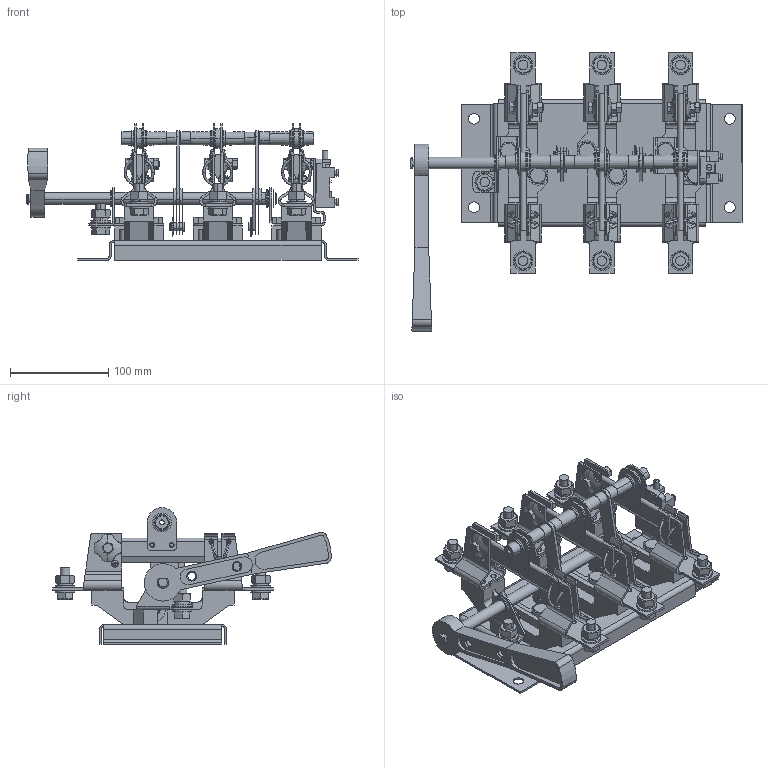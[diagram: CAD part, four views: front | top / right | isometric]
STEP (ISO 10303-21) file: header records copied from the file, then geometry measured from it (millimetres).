
FILE_DESCRIPTION (( 'STEP AP214' ), '1' );
FILE_NAME ('Ðàçúåäèíèòåëü ÐÅ19-37-31120-400À-ÈÏ-ÓÕË3-ÊÝÀÇ.STEP', '2023-08-11T07:49:28', ( '' ), ( '' ), 'SwSTEP 2.0', 'SolidWorks 2018', '' );
FILE_SCHEMA (( 'AUTOMOTIVE_DESIGN' ));
Length unit declared in the file: millimetre
Products named in the file (1): Ðàçúåäèíèòåëü ÐÅ19-37-31120-400À-ÈÏ-ÓÕË3-ÊÝÀÇ
Bounding box: 337.5 x 283.14 x 139 mm (x, y, z)
Surface area: 393121 mm2 (no closed solid volume)
Topology: 0 solids, 222 shells, 1989 faces, 5835 edges, 4036 vertices
Faces by surface type: plane 1068, cylinder 564, torus 140, cone 129, bspline 56, sphere 32
Entity records: 91285 total; most frequent: CARTESIAN_POINT 17300, DIRECTION 11103, ORIENTED_EDGE 9744, EDGE_CURVE 5835, AXIS2_PLACEMENT_3D 4188, VERTEX_POINT 4036, VECTOR 2727, LINE 2727
